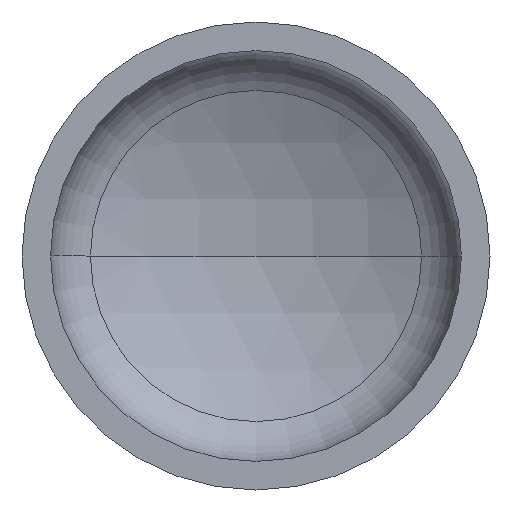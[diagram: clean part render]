
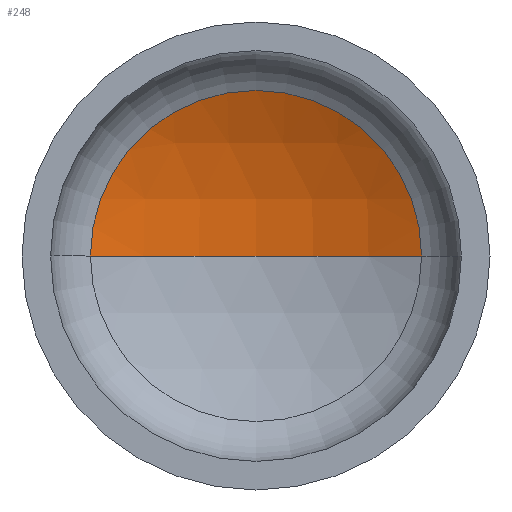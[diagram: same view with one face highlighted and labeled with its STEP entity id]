
A CAD part, front view. The second image highlights one B-rep face of the part: STEP entity #248.
In plain terms, the highlighted spherical face has radius 1520 mm.
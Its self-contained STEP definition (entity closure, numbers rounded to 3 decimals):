
#8 = EDGE_LOOP ( 'NONE', ( #128, #91, #77 ) ) ;
#20 = AXIS2_PLACEMENT_3D ( 'NONE', #211, #123, #368 ) ;
#23 = VERTEX_POINT ( 'NONE', #364 ) ;
#25 = AXIS2_PLACEMENT_3D ( 'NONE', #158, #322, #327 ) ;
#28 = AXIS2_PLACEMENT_3D ( 'NONE', #171, #172, #183 ) ;
#37 = VERTEX_POINT ( 'NONE', #291 ) ;
#56 = AXIS2_PLACEMENT_3D ( 'NONE', #213, #214, #254 ) ;
#77 = ORIENTED_EDGE ( 'NONE', *, *, #351, .T. ) ;
#80 = VERTEX_POINT ( 'NONE', #229 ) ;
#91 = ORIENTED_EDGE ( 'NONE', *, *, #353, .T. ) ;
#123 = DIRECTION ( 'NONE',  ( 0., 0., 1. ) ) ;
#128 = ORIENTED_EDGE ( 'NONE', *, *, #358, .F. ) ;
#158 = CARTESIAN_POINT ( 'NONE',  ( 0., -1028.161, 0. ) ) ;
#171 = CARTESIAN_POINT ( 'NONE',  ( 0., 335.095, 0. ) ) ;
#172 = DIRECTION ( 'NONE',  ( 0., -1., 0. ) ) ;
#178 = FACE_OUTER_BOUND ( 'NONE', #8, .T. ) ;
#183 = DIRECTION ( 'NONE',  ( 1., 0., 0. ) ) ;
#211 = CARTESIAN_POINT ( 'NONE',  ( 0., -1028.161, 0. ) ) ;
#213 = CARTESIAN_POINT ( 'NONE',  ( 0., -1028.161, 0. ) ) ;
#214 = DIRECTION ( 'NONE',  ( 0., 0., -1. ) ) ;
#222 = CIRCLE ( 'NONE', #20, 1520. ) ;
#229 = CARTESIAN_POINT ( 'NONE',  ( 0., 491.839, 0. ) ) ;
#248 = ADVANCED_FACE ( 'NONE', ( #178 ), #298, .F. ) ;
#254 = DIRECTION ( 'NONE',  ( -1., 0., 0. ) ) ;
#291 = CARTESIAN_POINT ( 'NONE',  ( -672.26, 335.095, 0. ) ) ;
#298 = SPHERICAL_SURFACE ( 'NONE', #56, 1520. ) ;
#322 = DIRECTION ( 'NONE',  ( 0., 0., -1. ) ) ;
#327 = DIRECTION ( 'NONE',  ( -1., 0., 0. ) ) ;
#343 = CIRCLE ( 'NONE', #25, 1520. ) ;
#351 = EDGE_CURVE ( 'NONE', #23, #37, #397, .T. ) ;
#353 = EDGE_CURVE ( 'NONE', #80, #23, #343, .T. ) ;
#358 = EDGE_CURVE ( 'NONE', #80, #37, #222, .T. ) ;
#364 = CARTESIAN_POINT ( 'NONE',  ( 672.26, 335.095, 0. ) ) ;
#368 = DIRECTION ( 'NONE',  ( 1., 0., 0. ) ) ;
#397 = CIRCLE ( 'NONE', #28, 672.26 ) ;
